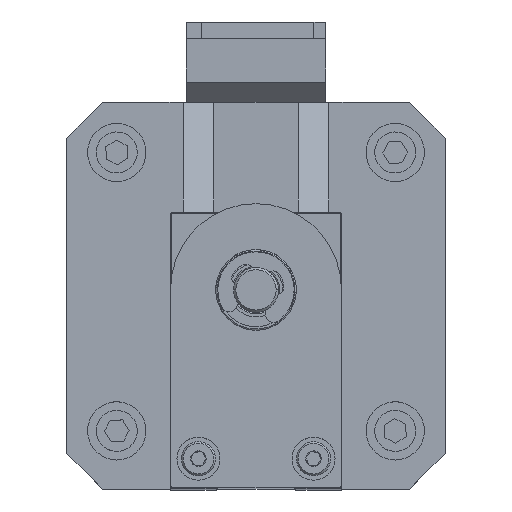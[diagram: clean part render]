
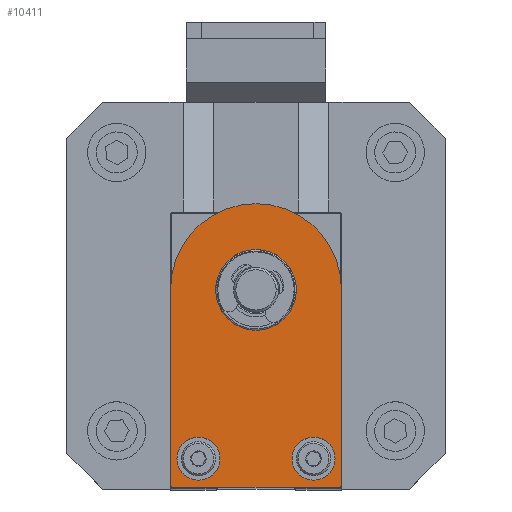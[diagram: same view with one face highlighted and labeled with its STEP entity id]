
A CAD part, top view. The second image highlights one B-rep face of the part: STEP entity #10411.
In plain terms, the highlighted planar face has unit normal (0, 0, 1) as drawn and (0, 0, -1) by its records, which use the part's own axes.
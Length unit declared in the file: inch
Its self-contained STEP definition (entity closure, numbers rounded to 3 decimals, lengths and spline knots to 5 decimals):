
#198 = PLANE ( 'NONE',  #28767 ) ;
#398 = EDGE_CURVE ( 'NONE', #1545, #24415, #25917, .T. ) ;
#679 = CARTESIAN_POINT ( 'NONE',  ( 0.2525, 0.12598, -0.159 ) ) ;
#729 = CARTESIAN_POINT ( 'NONE',  ( 0.375, 0.01, -0.159 ) ) ;
#1013 = ORIENTED_EDGE ( 'NONE', *, *, #11909, .F. ) ;
#1545 = VERTEX_POINT ( 'NONE', #26484 ) ;
#1793 = EDGE_CURVE ( 'NONE', #7693, #10723, #20936, .T. ) ;
#2166 = DIRECTION ( 'NONE',  ( 0., 0., 1. ) ) ;
#2245 = DIRECTION ( 'NONE',  ( 1., 0., 0. ) ) ;
#3506 = VECTOR ( 'NONE', #7417, 39.37008 ) ;
#3579 = DIRECTION ( 'NONE',  ( 1., 0., 0. ) ) ;
#4000 = DIRECTION ( 'NONE',  ( 0., 0., 1. ) ) ;
#4010 = DIRECTION ( 'NONE',  ( 0., 0., -1. ) ) ;
#4620 = ORIENTED_EDGE ( 'NONE', *, *, #8637, .F. ) ;
#4980 = CIRCLE ( 'NONE', #8712, 0.09449 ) ;
#5370 = DIRECTION ( 'NONE',  ( -1., 0., 0. ) ) ;
#5567 = CIRCLE ( 'NONE', #29053, 0.01 ) ;
#5697 = LINE ( 'NONE', #21529, #22961 ) ;
#5895 = CARTESIAN_POINT ( 'NONE',  ( 0., 0.87, -0.159 ) ) ;
#6185 = AXIS2_PLACEMENT_3D ( 'NONE', #25234, #14013, #15815 ) ;
#7399 = DIRECTION ( 'NONE',  ( 1., 0., 0. ) ) ;
#7417 = DIRECTION ( 'NONE',  ( 0., -1., 0. ) ) ;
#7693 = VERTEX_POINT ( 'NONE', #26536 ) ;
#8341 = EDGE_LOOP ( 'NONE', ( #18569, #27196 ) ) ;
#8585 = FACE_BOUND ( 'NONE', #20277, .T. ) ;
#8637 = EDGE_CURVE ( 'NONE', #7693, #23689, #27508, .T. ) ;
#8712 = AXIS2_PLACEMENT_3D ( 'NONE', #679, #25073, #27125 ) ;
#8840 = EDGE_LOOP ( 'NONE', ( #26959, #18987 ) ) ;
#9017 = CARTESIAN_POINT ( 'NONE',  ( -0.375, 0.87, -0.159 ) ) ;
#9073 = ORIENTED_EDGE ( 'NONE', *, *, #1793, .T. ) ;
#9466 = CARTESIAN_POINT ( 'NONE',  ( -0.34699, 0.12598, -0.159 ) ) ;
#9771 = CARTESIAN_POINT ( 'NONE',  ( 0.375, 0.87, -0.159 ) ) ;
#9782 = AXIS2_PLACEMENT_3D ( 'NONE', #16225, #25076, #7399 ) ;
#9961 = CARTESIAN_POINT ( 'NONE',  ( -0.17717, 0.8665, -0.159 ) ) ;
#9999 = CIRCLE ( 'NONE', #15157, 0.17717 ) ;
#10336 = VERTEX_POINT ( 'NONE', #21680 ) ;
#10411 = ADVANCED_FACE ( 'NONE', ( #8585, #21814, #10634, #20030 ), #198, .F. ) ;
#10571 = CARTESIAN_POINT ( 'NONE',  ( 0.17717, 0.8665, -0.159 ) ) ;
#10634 = FACE_BOUND ( 'NONE', #8840, .T. ) ;
#10723 = VERTEX_POINT ( 'NONE', #729 ) ;
#10915 = ORIENTED_EDGE ( 'NONE', *, *, #11639, .T. ) ;
#10948 = EDGE_CURVE ( 'NONE', #19531, #11640, #12741, .T. ) ;
#11180 = DIRECTION ( 'NONE',  ( -1., 0., 0. ) ) ;
#11639 = EDGE_CURVE ( 'NONE', #14397, #10336, #5567, .T. ) ;
#11640 = VERTEX_POINT ( 'NONE', #10571 ) ;
#11909 = EDGE_CURVE ( 'NONE', #23689, #10336, #5697, .T. ) ;
#12741 = CIRCLE ( 'NONE', #6185, 0.17717 ) ;
#12905 = DIRECTION ( 'NONE',  ( 1., 0., 0. ) ) ;
#13986 = CARTESIAN_POINT ( 'NONE',  ( -0.375, 0., -0.159 ) ) ;
#14007 = VERTEX_POINT ( 'NONE', #9466 ) ;
#14013 = DIRECTION ( 'NONE',  ( 0., 0., 1. ) ) ;
#14033 = EDGE_CURVE ( 'NONE', #24415, #1545, #4980, .T. ) ;
#14322 = AXIS2_PLACEMENT_3D ( 'NONE', #5895, #16897, #3579 ) ;
#14397 = VERTEX_POINT ( 'NONE', #27630 ) ;
#14463 = CARTESIAN_POINT ( 'NONE',  ( 0.15801, 0.12598, -0.159 ) ) ;
#14467 = DIRECTION ( 'NONE',  ( 0., 0., -1. ) ) ;
#14936 = ORIENTED_EDGE ( 'NONE', *, *, #23594, .F. ) ;
#14974 = DIRECTION ( 'NONE',  ( 1., 0., 0. ) ) ;
#15157 = AXIS2_PLACEMENT_3D ( 'NONE', #17484, #4000, #14974 ) ;
#15815 = DIRECTION ( 'NONE',  ( 1., 0., 0. ) ) ;
#16225 = CARTESIAN_POINT ( 'NONE',  ( -0.2525, 0.12598, -0.159 ) ) ;
#16855 = EDGE_LOOP ( 'NONE', ( #9073, #21169, #28883, #10915, #1013, #4620 ) ) ;
#16897 = DIRECTION ( 'NONE',  ( 0., 0., 1. ) ) ;
#17045 = CIRCLE ( 'NONE', #17537, 0.09449 ) ;
#17484 = CARTESIAN_POINT ( 'NONE',  ( 0., 0.8665, -0.159 ) ) ;
#17537 = AXIS2_PLACEMENT_3D ( 'NONE', #22331, #20266, #2245 ) ;
#17955 = DIRECTION ( 'NONE',  ( 0., 0., -1. ) ) ;
#17984 = DIRECTION ( 'NONE',  ( 1., 0., 0. ) ) ;
#18569 = ORIENTED_EDGE ( 'NONE', *, *, #14033, .F. ) ;
#18757 = VECTOR ( 'NONE', #5370, 39.37008 ) ;
#18987 = ORIENTED_EDGE ( 'NONE', *, *, #10948, .T. ) ;
#19099 = EDGE_CURVE ( 'NONE', #11640, #19531, #9999, .T. ) ;
#19456 = EDGE_CURVE ( 'NONE', #14007, #21216, #17045, .T. ) ;
#19531 = VERTEX_POINT ( 'NONE', #9961 ) ;
#20030 = FACE_OUTER_BOUND ( 'NONE', #16855, .T. ) ;
#20266 = DIRECTION ( 'NONE',  ( 0., 0., -1. ) ) ;
#20277 = EDGE_LOOP ( 'NONE', ( #23357, #14936 ) ) ;
#20625 = AXIS2_PLACEMENT_3D ( 'NONE', #25694, #14467, #25836 ) ;
#20936 = LINE ( 'NONE', #9771, #3506 ) ;
#21169 = ORIENTED_EDGE ( 'NONE', *, *, #25203, .T. ) ;
#21216 = VERTEX_POINT ( 'NONE', #25493 ) ;
#21379 = DIRECTION ( 'NONE',  ( 0., -1., 0. ) ) ;
#21386 = VERTEX_POINT ( 'NONE', #22664 ) ;
#21529 = CARTESIAN_POINT ( 'NONE',  ( -0.375, 0.87, -0.159 ) ) ;
#21680 = CARTESIAN_POINT ( 'NONE',  ( -0.375, 0.01, -0.159 ) ) ;
#21814 = FACE_BOUND ( 'NONE', #8341, .T. ) ;
#22072 = CARTESIAN_POINT ( 'NONE',  ( 0.2525, 0.12598, -0.159 ) ) ;
#22331 = CARTESIAN_POINT ( 'NONE',  ( -0.2525, 0.12598, -0.159 ) ) ;
#22472 = CIRCLE ( 'NONE', #9782, 0.09449 ) ;
#22608 = AXIS2_PLACEMENT_3D ( 'NONE', #22072, #17955, #11180 ) ;
#22664 = CARTESIAN_POINT ( 'NONE',  ( 0.365, 0., -0.159 ) ) ;
#22961 = VECTOR ( 'NONE', #21379, 39.37008 ) ;
#23357 = ORIENTED_EDGE ( 'NONE', *, *, #19456, .F. ) ;
#23505 = CIRCLE ( 'NONE', #20625, 0.01 ) ;
#23594 = EDGE_CURVE ( 'NONE', #21216, #14007, #22472, .T. ) ;
#23689 = VERTEX_POINT ( 'NONE', #28004 ) ;
#24415 = VERTEX_POINT ( 'NONE', #14463 ) ;
#25073 = DIRECTION ( 'NONE',  ( 0., 0., -1. ) ) ;
#25076 = DIRECTION ( 'NONE',  ( 0., 0., -1. ) ) ;
#25203 = EDGE_CURVE ( 'NONE', #10723, #21386, #23505, .T. ) ;
#25234 = CARTESIAN_POINT ( 'NONE',  ( 0., 0.8665, -0.159 ) ) ;
#25493 = CARTESIAN_POINT ( 'NONE',  ( -0.15801, 0.12598, -0.159 ) ) ;
#25694 = CARTESIAN_POINT ( 'NONE',  ( 0.365, 0.01, -0.159 ) ) ;
#25836 = DIRECTION ( 'NONE',  ( 1., 0., 0. ) ) ;
#25917 = CIRCLE ( 'NONE', #22608, 0.09449 ) ;
#26470 = CARTESIAN_POINT ( 'NONE',  ( -0.365, 0.01, -0.159 ) ) ;
#26484 = CARTESIAN_POINT ( 'NONE',  ( 0.34699, 0.12598, -0.159 ) ) ;
#26536 = CARTESIAN_POINT ( 'NONE',  ( 0.375, 0.87, -0.159 ) ) ;
#26875 = EDGE_CURVE ( 'NONE', #21386, #14397, #27116, .T. ) ;
#26959 = ORIENTED_EDGE ( 'NONE', *, *, #19099, .T. ) ;
#27116 = LINE ( 'NONE', #13986, #18757 ) ;
#27125 = DIRECTION ( 'NONE',  ( -1., 0., 0. ) ) ;
#27196 = ORIENTED_EDGE ( 'NONE', *, *, #398, .F. ) ;
#27508 = CIRCLE ( 'NONE', #14322, 0.375 ) ;
#27630 = CARTESIAN_POINT ( 'NONE',  ( -0.365, 0., -0.159 ) ) ;
#28004 = CARTESIAN_POINT ( 'NONE',  ( -0.375, 0.87, -0.159 ) ) ;
#28767 = AXIS2_PLACEMENT_3D ( 'NONE', #9017, #2166, #17984 ) ;
#28883 = ORIENTED_EDGE ( 'NONE', *, *, #26875, .T. ) ;
#29053 = AXIS2_PLACEMENT_3D ( 'NONE', #26470, #4010, #12905 ) ;
